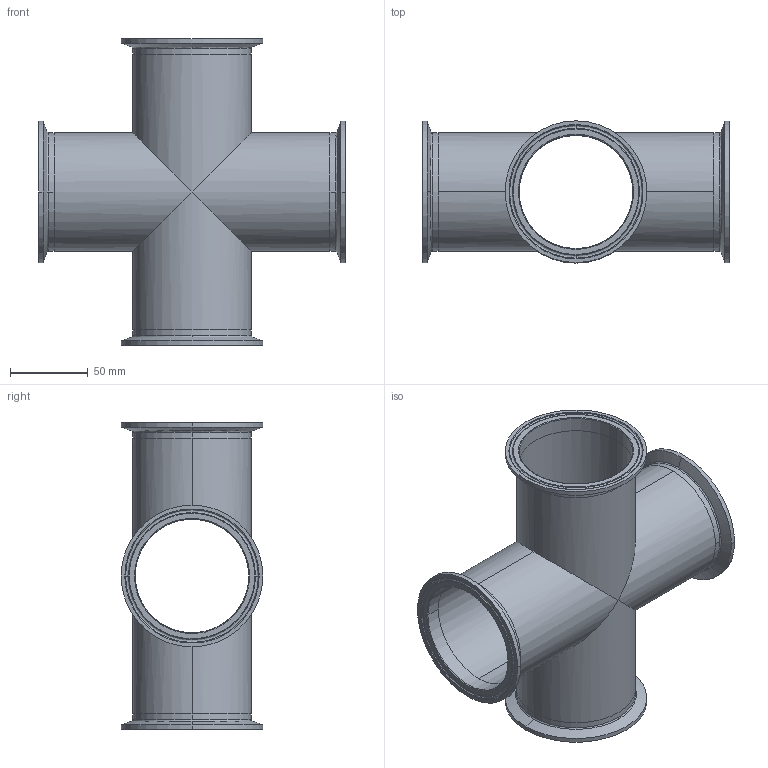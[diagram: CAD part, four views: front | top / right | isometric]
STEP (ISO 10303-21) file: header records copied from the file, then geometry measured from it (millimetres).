
FILE_DESCRIPTION (( 'STEP AP214' ), '1' );
FILE_NAME ('TEG96L3.0-...STEP', '2016-05-22T05:42:43', ( 'eran' ), ( '' ), 'SwSTEP 2.0', 'SolidWorks 2016', '' );
FILE_SCHEMA (( 'AUTOMOTIVE_DESIGN' ));
Length unit declared in the file: millimetre
Products named in the file (1): TEG96L3.0-..
Bounding box: 196.85 x 90.91 x 196.85 mm (x, y, z)
Volume: 146182.3 mm3; surface area: 158728.1 mm2
Topology: 5 solids, 5 shells, 120 faces, 304 edges, 196 vertices
Faces by surface type: cylinder 40, bspline 40, cone 24, plane 16
Entity records: 6530 total; most frequent: CARTESIAN_POINT 3605, DIRECTION 626, ORIENTED_EDGE 608, EDGE_CURVE 304, AXIS2_PLACEMENT_3D 281, CIRCLE 200, VERTEX_POINT 196, EDGE_LOOP 136
